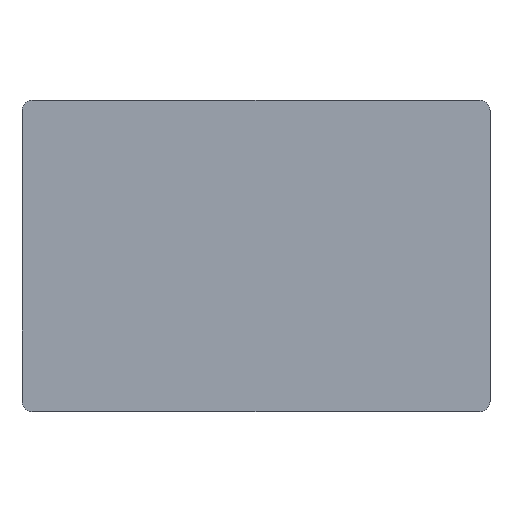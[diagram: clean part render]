
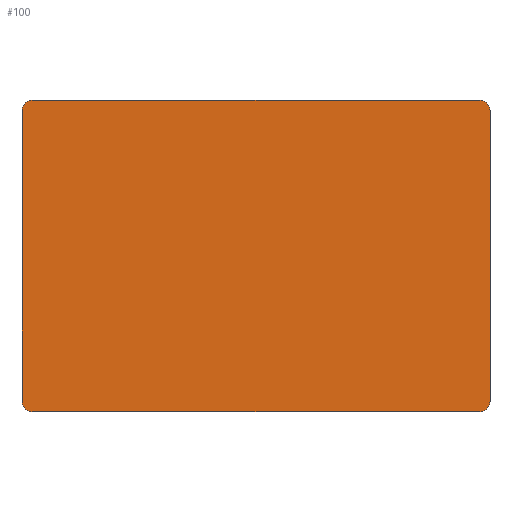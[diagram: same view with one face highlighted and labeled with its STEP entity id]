
A CAD part, top view. The second image highlights one B-rep face of the part: STEP entity #100.
In plain terms, the highlighted planar face has unit normal (0, 0, 1).
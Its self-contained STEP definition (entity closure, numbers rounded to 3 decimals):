
#1 = EDGE_CURVE ( 'NONE', #37, #90, #309, .T. ) ;
#4 = ORIENTED_EDGE ( 'NONE', *, *, #74, .T. ) ;
#11 = VECTOR ( 'NONE', #102, 1000. ) ;
#17 = CARTESIAN_POINT ( 'NONE',  ( -74.9, -52.25, 4. ) ) ;
#20 = DIRECTION ( 'NONE',  ( -1., 0., 0. ) ) ;
#22 = CARTESIAN_POINT ( 'NONE',  ( 74.9, -48.65, 4. ) ) ;
#33 = VERTEX_POINT ( 'NONE', #68 ) ;
#37 = VERTEX_POINT ( 'NONE', #297 ) ;
#47 = PLANE ( 'NONE',  #136 ) ;
#51 = VECTOR ( 'NONE', #99, 1000. ) ;
#58 = ORIENTED_EDGE ( 'NONE', *, *, #1, .T. ) ;
#64 = EDGE_CURVE ( 'NONE', #33, #167, #199, .T. ) ;
#68 = CARTESIAN_POINT ( 'NONE',  ( 78.5, 48.65, 4. ) ) ;
#73 = CIRCLE ( 'NONE', #276, 3.6 ) ;
#74 = EDGE_CURVE ( 'NONE', #90, #80, #320, .T. ) ;
#75 = CARTESIAN_POINT ( 'NONE',  ( -74.9, 52.25, 4. ) ) ;
#77 = ORIENTED_EDGE ( 'NONE', *, *, #154, .T. ) ;
#79 = DIRECTION ( 'NONE',  ( 0., -1., 0. ) ) ;
#80 = VERTEX_POINT ( 'NONE', #301 ) ;
#82 = CARTESIAN_POINT ( 'NONE',  ( -78.5, -52.25, 4. ) ) ;
#90 = VERTEX_POINT ( 'NONE', #17 ) ;
#91 = FACE_OUTER_BOUND ( 'NONE', #263, .T. ) ;
#99 = DIRECTION ( 'NONE',  ( 1., 0., 0. ) ) ;
#100 = ADVANCED_FACE ( 'NONE', ( #91 ), #47, .F. ) ;
#102 = DIRECTION ( 'NONE',  ( -1., 0., 0. ) ) ;
#114 = ORIENTED_EDGE ( 'NONE', *, *, #148, .T. ) ;
#115 = DIRECTION ( 'NONE',  ( 0., 1., 0. ) ) ;
#116 = VERTEX_POINT ( 'NONE', #200 ) ;
#121 = AXIS2_PLACEMENT_3D ( 'NONE', #226, #295, #20 ) ;
#128 = CARTESIAN_POINT ( 'NONE',  ( 78.5, 52.25, 4. ) ) ;
#129 = DIRECTION ( 'NONE',  ( 0., 0., 1. ) ) ;
#136 = AXIS2_PLACEMENT_3D ( 'NONE', #150, #272, #253 ) ;
#142 = VERTEX_POINT ( 'NONE', #75 ) ;
#148 = EDGE_CURVE ( 'NONE', #167, #142, #159, .T. ) ;
#150 = CARTESIAN_POINT ( 'NONE',  ( 0., 0., 4. ) ) ;
#153 = AXIS2_PLACEMENT_3D ( 'NONE', #22, #325, #233 ) ;
#154 = EDGE_CURVE ( 'NONE', #248, #37, #235, .T. ) ;
#158 = EDGE_CURVE ( 'NONE', #142, #248, #73, .T. ) ;
#159 = LINE ( 'NONE', #128, #11 ) ;
#165 = ORIENTED_EDGE ( 'NONE', *, *, #158, .T. ) ;
#167 = VERTEX_POINT ( 'NONE', #207 ) ;
#173 = CARTESIAN_POINT ( 'NONE',  ( -74.9, -48.65, 4. ) ) ;
#184 = CARTESIAN_POINT ( 'NONE',  ( 78.5, -52.25, 4. ) ) ;
#190 = ORIENTED_EDGE ( 'NONE', *, *, #64, .T. ) ;
#199 = CIRCLE ( 'NONE', #121, 3.6 ) ;
#200 = CARTESIAN_POINT ( 'NONE',  ( 78.5, -48.65, 4. ) ) ;
#206 = CARTESIAN_POINT ( 'NONE',  ( -74.9, 48.65, 4. ) ) ;
#207 = CARTESIAN_POINT ( 'NONE',  ( 74.9, 52.25, 4. ) ) ;
#215 = EDGE_CURVE ( 'NONE', #80, #116, #298, .T. ) ;
#226 = CARTESIAN_POINT ( 'NONE',  ( 74.9, 48.65, 4. ) ) ;
#233 = DIRECTION ( 'NONE',  ( -1., 0., 0. ) ) ;
#235 = LINE ( 'NONE', #82, #266 ) ;
#238 = CARTESIAN_POINT ( 'NONE',  ( -78.5, 48.65, 4. ) ) ;
#239 = LINE ( 'NONE', #184, #306 ) ;
#242 = AXIS2_PLACEMENT_3D ( 'NONE', #173, #319, #300 ) ;
#248 = VERTEX_POINT ( 'NONE', #238 ) ;
#253 = DIRECTION ( 'NONE',  ( -1., 0., 0. ) ) ;
#257 = DIRECTION ( 'NONE',  ( -1., 0., 0. ) ) ;
#263 = EDGE_LOOP ( 'NONE', ( #77, #58, #4, #316, #286, #190, #114, #165 ) ) ;
#266 = VECTOR ( 'NONE', #79, 1000. ) ;
#268 = EDGE_CURVE ( 'NONE', #116, #33, #239, .T. ) ;
#272 = DIRECTION ( 'NONE',  ( 0., 0., -1. ) ) ;
#276 = AXIS2_PLACEMENT_3D ( 'NONE', #206, #129, #257 ) ;
#286 = ORIENTED_EDGE ( 'NONE', *, *, #268, .T. ) ;
#295 = DIRECTION ( 'NONE',  ( 0., 0., 1. ) ) ;
#297 = CARTESIAN_POINT ( 'NONE',  ( -78.5, -48.65, 4. ) ) ;
#298 = CIRCLE ( 'NONE', #153, 3.6 ) ;
#300 = DIRECTION ( 'NONE',  ( -1., 0., 0. ) ) ;
#301 = CARTESIAN_POINT ( 'NONE',  ( 74.9, -52.25, 4. ) ) ;
#306 = VECTOR ( 'NONE', #115, 1000. ) ;
#309 = CIRCLE ( 'NONE', #242, 3.6 ) ;
#316 = ORIENTED_EDGE ( 'NONE', *, *, #215, .T. ) ;
#319 = DIRECTION ( 'NONE',  ( 0., 0., 1. ) ) ;
#320 = LINE ( 'NONE', #321, #51 ) ;
#321 = CARTESIAN_POINT ( 'NONE',  ( 78.5, -52.25, 4. ) ) ;
#325 = DIRECTION ( 'NONE',  ( 0., 0., 1. ) ) ;
